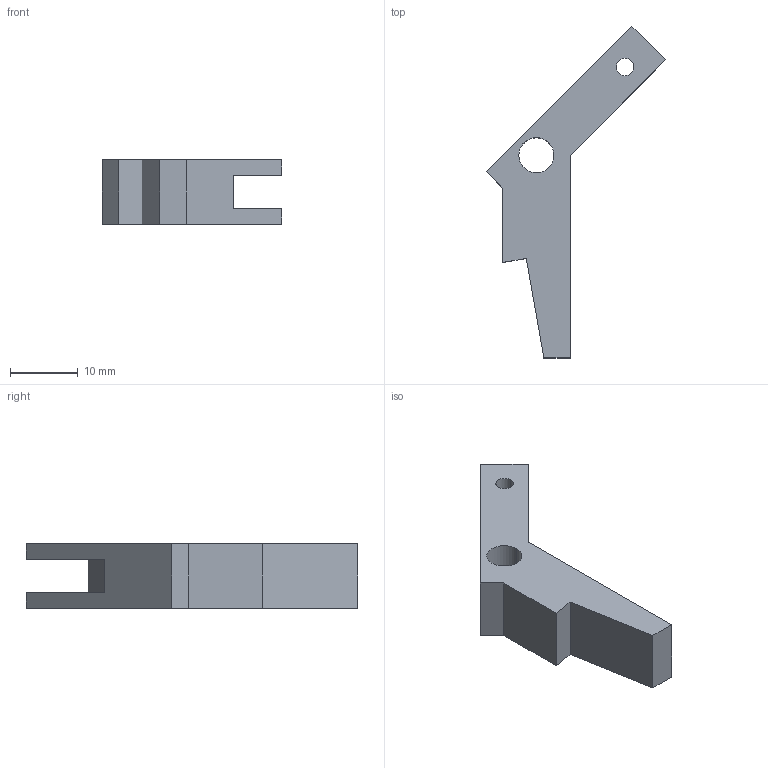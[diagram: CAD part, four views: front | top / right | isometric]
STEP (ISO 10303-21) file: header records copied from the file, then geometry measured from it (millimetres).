
FILE_DESCRIPTION (( 'STEP AP214' ), '1' );
FILE_NAME ('Greifermechanismus_teil2.STEP', '2026-02-05T09:56:15', ( '' ), ( '' ), 'SwSTEP 2.0', 'SolidWorks 2025', '' );
FILE_SCHEMA (( 'AUTOMOTIVE_DESIGN' ));
Length unit declared in the file: metre
Products named in the file (1): Greifermechanismus_teil2
Bounding box: 26.57 x 49.14 x 9.5 mm (x, y, z)
Volume: 3198.6 mm3; surface area: 2165.1 mm2
Topology: 1 solids, 1 shells, 22 faces, 60 edges, 40 vertices
Faces by surface type: plane 16, cylinder 6
Entity records: 731 total; most frequent: CARTESIAN_POINT 123, ORIENTED_EDGE 120, DIRECTION 118, EDGE_CURVE 60, VECTOR 48, LINE 48, VERTEX_POINT 40, AXIS2_PLACEMENT_3D 35
